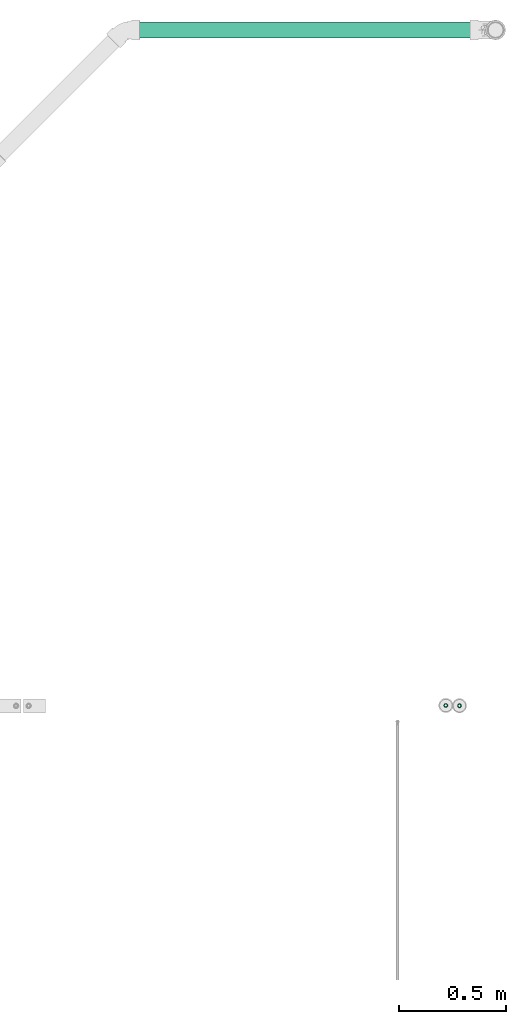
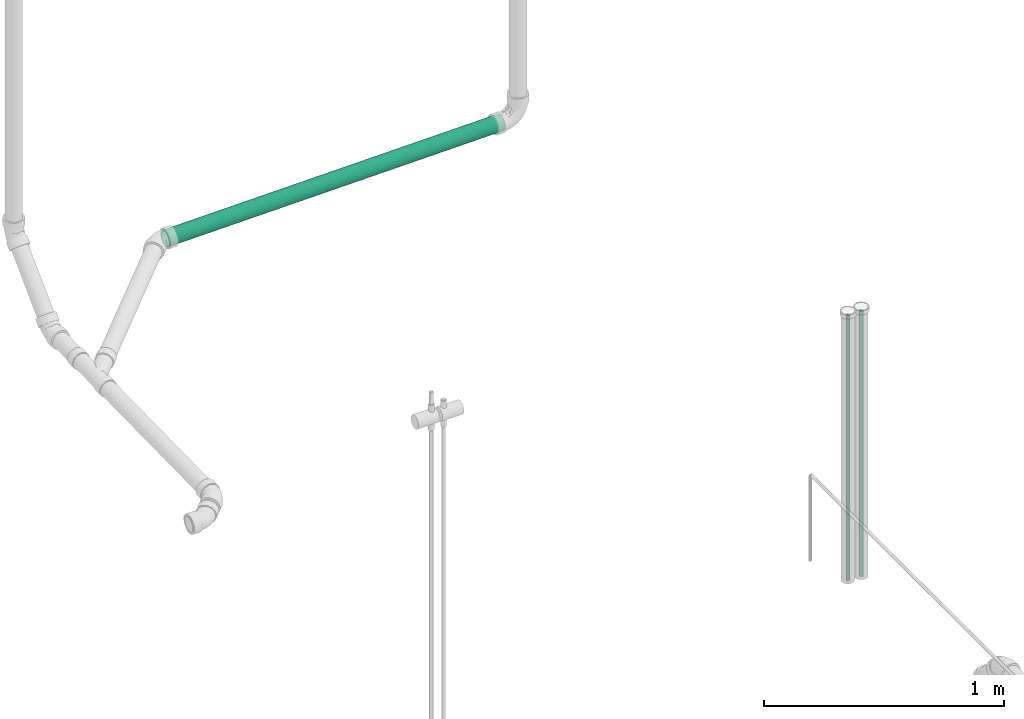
# One storey, part 5 of 18: 3 flow segments.
"""IFC2X3 building model written with IfcOpenShell, lengths in millimetres."""

from ifc_helpers import new_model, entity, si_unit, converted_unit, derived_unit, direction, frame, origin_with_axes, origin_2d_with_axis, place, context, subcontext, project, spatial, hollow_circle, extrude, source, transform, mapped, type_object, element, save


model = new_model("IFC2X3")

# Units and contexts
model_context = context("Model", 3, precision=0.01, world=frame((0.0, 4.29681676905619e-09, 0.0)), true_north=direction((4.01073788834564e-13, 1.0)))
plan_context = context("Plan", 3, precision=0.01, world=frame((0.0, 4.29681676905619e-09, 0.0)), true_north=direction((4.01073788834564e-13, 1.0)))
body_context = subcontext(model_context, "Body", "Model", "MODEL_VIEW")
ifc_project = project(units=[converted_unit("PLANEANGLEUNIT", "DEGREE", entity("IfcPositiveLengthMeasure", 0.0174532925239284), si_unit("PLANEANGLEUNIT", "RADIAN"), dimensions=[0, 0, 0, 0, 0, 0, 0]), si_unit("AREAUNIT", "SQUARE_METRE"), si_unit("LENGTHUNIT", "METRE", prefix="MILLI"), si_unit("MASSUNIT", "GRAM", prefix="KILO"), si_unit("POWERUNIT", "WATT"), si_unit("PRESSUREUNIT", "PASCAL", prefix="KILO"), si_unit("FORCEUNIT", "NEWTON", prefix="KILO"), si_unit("ELECTRICVOLTAGEUNIT", "VOLT"), si_unit("ELECTRICCURRENTUNIT", "AMPERE"), si_unit("THERMODYNAMICTEMPERATUREUNIT", "DEGREE_CELSIUS"), si_unit("TIMEUNIT", "SECOND"), si_unit("VOLUMEUNIT", "CUBIC_METRE"), derived_unit("LINEARVELOCITYUNIT", [(si_unit("LENGTHUNIT", "METRE"), 1), (si_unit("TIMEUNIT", "SECOND"), -1)]), derived_unit("VOLUMETRICFLOWRATEUNIT", [(si_unit("VOLUMEUNIT", "CUBIC_METRE"), 1), (si_unit("TIMEUNIT", "SECOND"), -1)]), derived_unit("THERMALTRANSMITTANCEUNIT", [(si_unit("POWERUNIT", "WATT"), 1), (si_unit("THERMODYNAMICTEMPERATUREUNIT", "KELVIN"), -1), (si_unit("AREAUNIT", "SQUARE_METRE"), -1)]), derived_unit("SOUNDPRESSUREUNIT", [(si_unit("PRESSUREUNIT", "PASCAL"), 1)])], contexts=[model_context, plan_context])

# Site, building, storey
site_placement = place(None, frame((0.0, -4.29681676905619e-09, 0.0), z_axis=(0.0, 0.0, 1.0), x_axis=(1.0, 0.0, 0.0)))
site = spatial("IfcSite", under=ifc_project, at=site_placement, Name="ENGM", CompositionType="ELEMENT")
building_placement = place(site_placement, frame((0.0, 4.29681676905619e-09, 0.0), z_axis=(0.0, 0.0, 1.0), x_axis=(1.0, 0.0, 0.0)))
building = spatial("IfcBuilding", under=site, at=building_placement, Name="TI", CompositionType="ELEMENT")
storey_placement = place(building_placement, frame((0.0, 0.0, 204000.0), z_axis=(0.0, 0.0, 1.0), x_axis=(1.0, 0.0, 0.0)))
storey = spatial("IfcBuildingStorey", under=building, at=storey_placement, Name="Nivå D", CompositionType="ELEMENT", Elevation=204000.0)

# Flow segments
pipe_segment_type_1 = type_object("IfcPipeSegmentType", Name="MA", PredefinedType="RIGIDSEGMENT")
shared_shape_1 = source(origin_with_axes(), body_context, "Body", "SweptSolid", [
    extrude(hollow_circle(Radius=37.5, WallThickness=2.0, at=origin_2d_with_axis()), frame((0.0, 0.0, 0.0), z_axis=(1.0, 0.0, 0.0), x_axis=(0.0, 1.0, 0.0)), (0.0, 0.0, 1.0), 1616.5),
])
flow_segment_placement = place(storey_placement, frame((593320.93879, 578148.49495, 6040.95907000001), z_axis=(-0.0166640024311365, 0.0, 0.999861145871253), x_axis=(-0.999861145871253, 0.0, -0.0166640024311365)))
element("IfcFlowSegment", 1, at=flow_segment_placement, inside=storey, type_object=pipe_segment_type_1, Name="MA", context=body_context, shape_type="MappedRepresentation", body=[
    mapped(shared_shape_1, transform((0.0, 0.0, 0.0), scale=1.0)),
])
pipe_segment_type_2 = type_object("IfcPipeSegmentType", Name="Kobberrør", PredefinedType="RIGIDSEGMENT")
shared_shape_2 = source(origin_with_axes(), body_context, "Body", "SweptSolid", [
    extrude(hollow_circle(Radius=9.0, WallThickness=2.0, at=origin_2d_with_axis()), frame((0.0, 0.0, 0.0), z_axis=(1.0, 0.0, 0.0), x_axis=(0.0, 1.0, 0.0)), (0.0, 0.0, 1.0), 1350.0),
])
for number, where, z_axis, x_axis in (
    (2, (593233.48235, 574996.60269, 7026.0), (0.0, -1.0, 0.0), (0.0, 0.0, -1.0)),
    (3, (593170.00678, 574997.85556, 7026.0), (0.0, -1.0, 0.0), (0.0, 0.0, -1.0)),
):
    element("IfcFlowSegment", number, at=place(storey_placement, frame(where, z_axis=z_axis, x_axis=x_axis)), inside=storey, type_object=pipe_segment_type_2, Name="Kobberrør", context=body_context, shape_type="MappedRepresentation", body=[
        mapped(shared_shape_2, transform((0.0, 0.0, 0.0), scale=1.0)),
    ])

save(model, "model.ifc")
